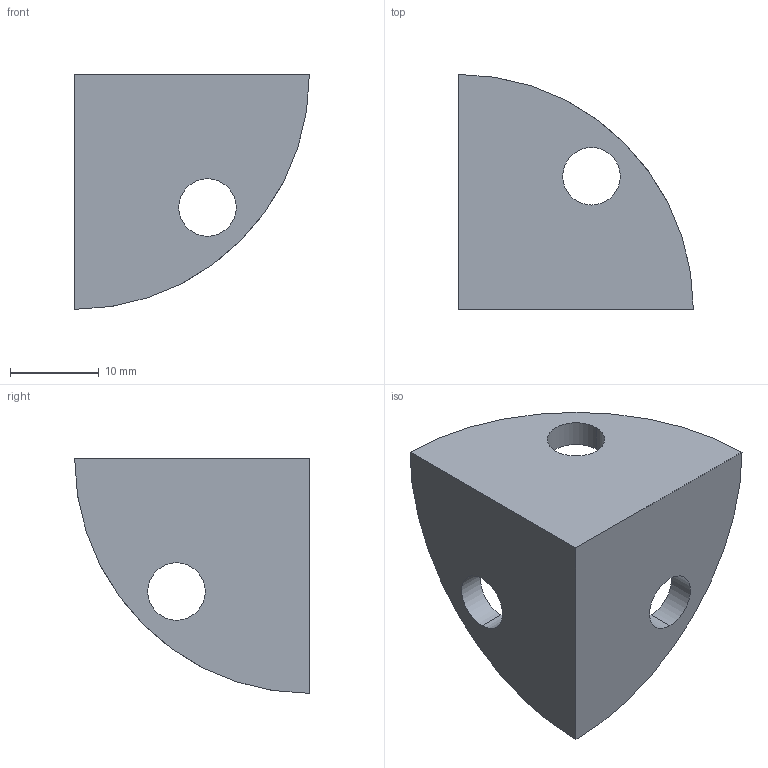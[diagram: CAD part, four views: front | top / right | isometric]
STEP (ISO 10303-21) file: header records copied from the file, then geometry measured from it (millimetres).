
FILE_DESCRIPTION (( 'STEP AP203' ), '1' );
FILE_NAME ('WTC0630.STEP', '2024-02-19T01:19:20', ( '' ), ( '' ), 'SwSTEP 2.0', 'SolidWorks 2022', '' );
FILE_SCHEMA (( 'CONFIG_CONTROL_DESIGN' ));
Length unit declared in the file: millimetre
Products named in the file (1): WTC0630
Bounding box: 26.5 x 26.5 x 26.5 mm (x, y, z)
Volume: 4290.4 mm3; surface area: 3268.5 mm2
Topology: 1 solids, 1 shells, 137 faces, 343 edges, 207 vertices
Faces by surface type: cylinder 45, torus 34, plane 31, sphere 14, bspline 13
Entity records: 4605 total; most frequent: CARTESIAN_POINT 1352, DIRECTION 691, ORIENTED_EDGE 668, EDGE_CURVE 334, AXIS2_PLACEMENT_3D 301, VERTEX_POINT 203, CIRCLE 176, EDGE_LOOP 147
